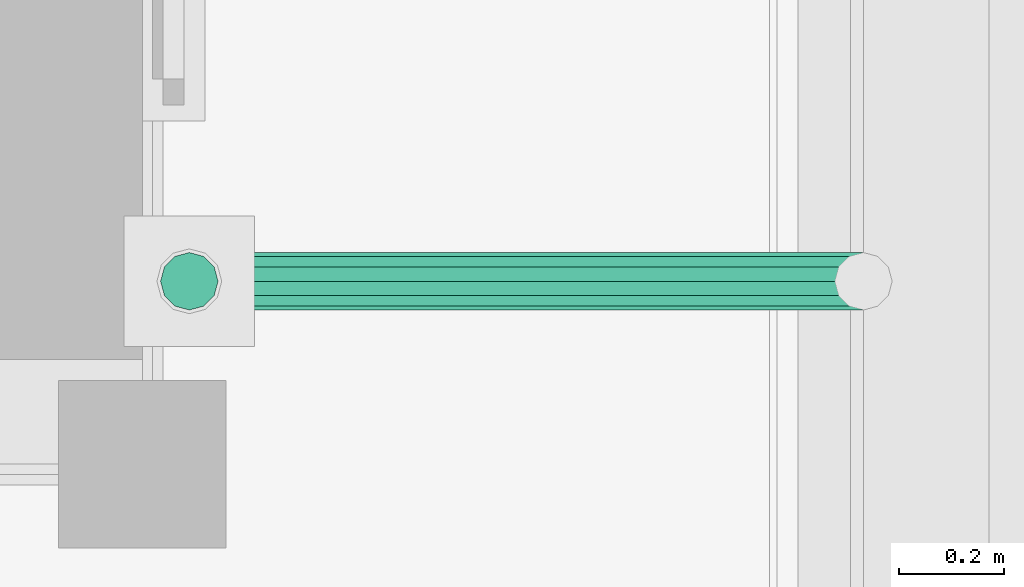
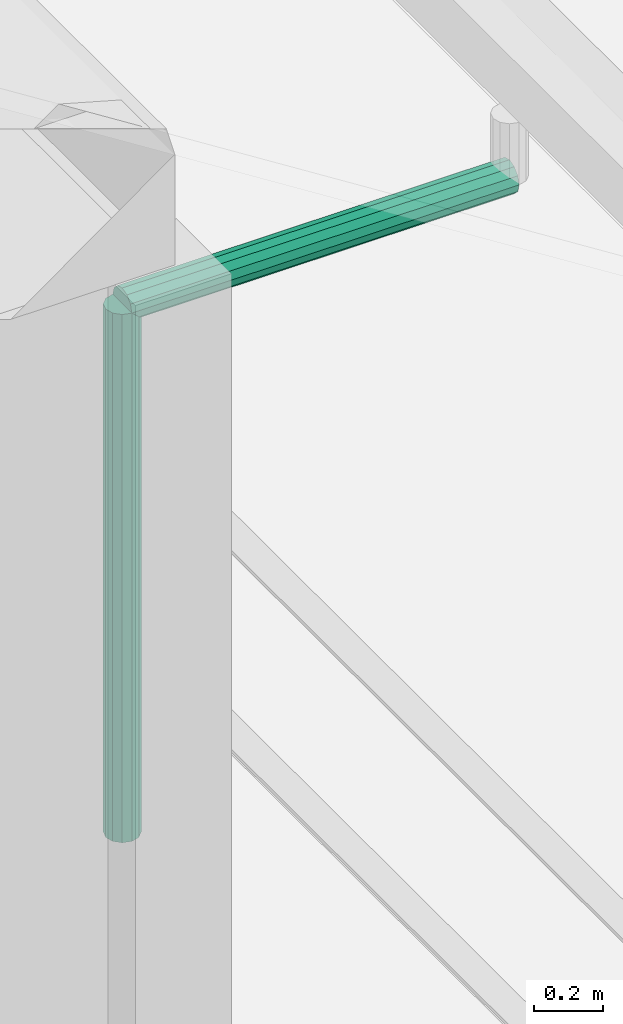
# One storey, part 114 of 177: 2 pipe segments.
"""IFC4 building model written with IfcOpenShell, lengths in metres."""

from ifc_helpers import new_model, si_unit, origin, origin_with_axes, place, context, subcontext, project, spatial, triangles, element, save


model = new_model("IFC4")

# Units and contexts
model_context = context("Model", 3, precision=1e-05, world=origin_with_axes())
body_context = subcontext(model_context, "Body", "Model", "MODEL_VIEW")
ifc_project = project(units=[si_unit("LENGTHUNIT", "METRE"), si_unit("AREAUNIT", "SQUARE_METRE"), si_unit("VOLUMEUNIT", "CUBIC_METRE"), si_unit("PLANEANGLEUNIT", "RADIAN")], contexts=[model_context])

# Site, building, storey
site_placement = place(None, origin_with_axes())
site = spatial("IfcSite", under=ifc_project, at=site_placement, Name="Predio Los Mangos - Morales, San Martín", CompositionType="ELEMENT")
building_placement = place(site_placement, origin())
building = spatial("IfcBuilding", under=site, at=building_placement, Name="Hogar de Refugio Temporal", CompositionType="ELEMENT")
storey_placement = place(building_placement, origin())
storey = spatial("IfcBuildingStorey", under=building, at=storey_placement, Name="NIVEL 1 (NPT +0.00)", CompositionType="ELEMENT", Elevation=0.0)

# Pipe segments
pipe_segment_1_placement = place(storey_placement, origin())
element("IfcPipeSegment", 1, at=pipe_segment_1_placement, inside=storey, Name="montante_desvio", ObjectType="Montante PVC 4\"", PredefinedType="RIGIDSEGMENT", context=body_context, shape_type="Tessellation", body=[
    triangles([(67.88, 93.05, 2.965), (66.59, 93.05, 2.965), (67.88, 93.0225, 2.9576), (66.59, 93.0225, 2.9576), (67.88, 93.0024, 2.9375), (66.59, 93.0024, 2.9375), (67.88, 92.995, 2.91), (66.59, 92.995, 2.91), (67.88, 93.0024, 2.8825), (66.59, 93.0024, 2.8825), (67.88, 93.0225, 2.8624), (66.59, 93.0225, 2.8624), (67.88, 93.05, 2.855), (66.59, 93.05, 2.855), (67.88, 93.0775, 2.8624), (66.59, 93.0775, 2.8624), (67.88, 93.0976, 2.8825), (66.59, 93.0976, 2.8825), (67.88, 93.105, 2.91), (66.59, 93.105, 2.91), (67.88, 93.0976, 2.9375), (66.59, 93.0976, 2.9375), (67.88, 93.0775, 2.9576), (66.59, 93.0775, 2.9576)], [[1, 2, 4], [1, 4, 3], [3, 4, 6], [3, 6, 5], [5, 6, 8], [5, 8, 7], [7, 8, 10], [7, 10, 9], [9, 10, 12], [9, 12, 11], [11, 12, 14], [11, 14, 13], [13, 14, 16], [13, 16, 15], [15, 16, 18], [15, 18, 17], [17, 18, 20], [17, 20, 19], [19, 20, 22], [19, 22, 21], [6, 4, 2], [2, 24, 22], [22, 20, 18], [18, 16, 14], [14, 12, 10], [10, 8, 6], [6, 2, 22], [22, 18, 14], [14, 10, 6], [22, 14, 6], [21, 22, 24], [21, 24, 23], [23, 24, 2], [23, 2, 1], [23, 1, 3], [3, 5, 7], [7, 9, 11], [11, 13, 15], [15, 17, 19], [19, 21, 23], [23, 3, 7], [7, 11, 15], [15, 19, 23], [7, 15, 23]]),
])
pipe_segment_2_placement = place(storey_placement, origin())
element("IfcPipeSegment", 2, at=pipe_segment_2_placement, inside=storey, Name="montante_bajada", ObjectType="Montante PVC 4\"", PredefinedType="RIGIDSEGMENT", context=body_context, shape_type="Tessellation", body=[
    triangles([(66.59, 93.105, 2.91), (66.59, 93.105, 1.05), (66.5625, 93.0976, 2.91), (66.5625, 93.0976, 1.05), (66.5424, 93.0775, 2.91), (66.5424, 93.0775, 1.05), (66.535, 93.05, 2.91), (66.535, 93.05, 1.05), (66.5424, 93.0225, 2.91), (66.5424, 93.0225, 1.05), (66.5625, 93.0024, 2.91), (66.5625, 93.0024, 1.05), (66.59, 92.995, 2.91), (66.59, 92.995, 1.05), (66.6175, 93.0024, 2.91), (66.6175, 93.0024, 1.05), (66.6376, 93.0225, 2.91), (66.6376, 93.0225, 1.05), (66.645, 93.05, 2.91), (66.645, 93.05, 1.05), (66.6376, 93.0775, 2.91), (66.6376, 93.0775, 1.05), (66.6175, 93.0976, 2.91), (66.6175, 93.0976, 1.05)], [[1, 2, 4], [1, 4, 3], [3, 4, 6], [3, 6, 5], [5, 6, 8], [5, 8, 7], [7, 8, 10], [7, 10, 9], [9, 10, 12], [9, 12, 11], [11, 12, 14], [11, 14, 13], [13, 14, 16], [13, 16, 15], [15, 16, 18], [15, 18, 17], [17, 18, 20], [17, 20, 19], [19, 20, 22], [19, 22, 21], [6, 4, 2], [2, 24, 22], [22, 20, 18], [18, 16, 14], [14, 12, 10], [10, 8, 6], [6, 2, 22], [22, 18, 14], [14, 10, 6], [22, 14, 6], [21, 22, 24], [21, 24, 23], [23, 24, 2], [23, 2, 1], [23, 1, 3], [3, 5, 7], [7, 9, 11], [11, 13, 15], [15, 17, 19], [19, 21, 23], [23, 3, 7], [7, 11, 15], [15, 19, 23], [7, 15, 23]]),
])

save(model, "model.ifc")
